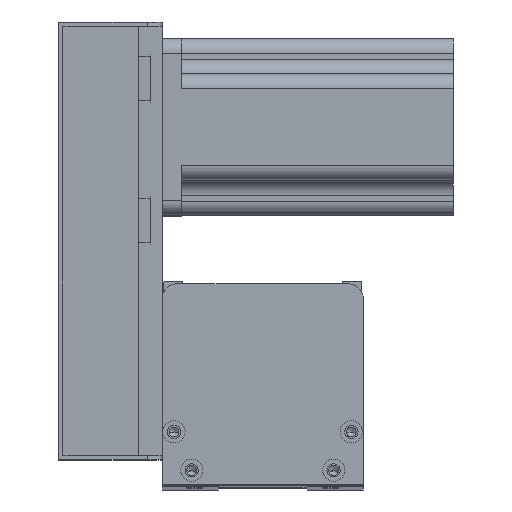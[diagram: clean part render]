
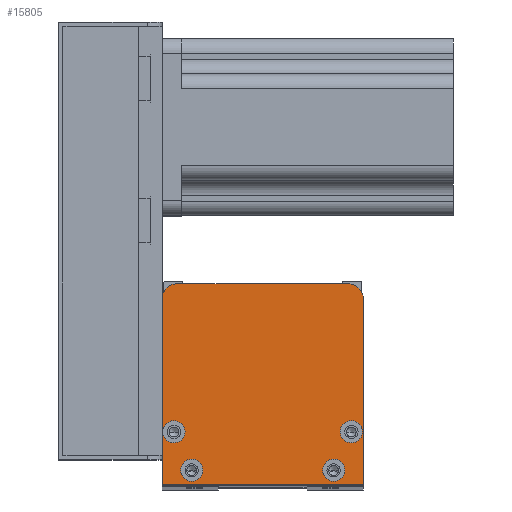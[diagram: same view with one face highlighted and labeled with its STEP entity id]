
A CAD part, top view. The second image highlights one B-rep face of the part: STEP entity #15805.
In plain terms, the highlighted planar face has unit normal (0, 0, 1) as drawn and (0, 0, -1) by its records, which use the part's own axes.
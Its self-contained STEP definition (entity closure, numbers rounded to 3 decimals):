
#329 = CIRCLE ( 'NONE', #26296, 3.75 ) ;
#2319 = CARTESIAN_POINT ( 'NONE',  ( 6.25, 5., 0. ) ) ;
#2502 = DIRECTION ( 'NONE',  ( 0., 0., -1. ) ) ;
#2797 = DIRECTION ( 'NONE',  ( 1., 0., 0. ) ) ;
#3062 = CARTESIAN_POINT ( 'NONE',  ( 63., 68., 0. ) ) ;
#3683 = VERTEX_POINT ( 'NONE', #26411 ) ;
#3705 = AXIS2_PLACEMENT_3D ( 'NONE', #26289, #9169, #24221 ) ;
#3900 = CARTESIAN_POINT ( 'NONE',  ( 0., 0., 0. ) ) ;
#4113 = VERTEX_POINT ( 'NONE', #2319 ) ;
#4604 = VECTOR ( 'NONE', #14771, 1000. ) ;
#4625 = EDGE_CURVE ( 'NONE', #4113, #7602, #5783, .T. ) ;
#4822 = FACE_BOUND ( 'NONE', #12379, .T. ) ;
#4890 = EDGE_CURVE ( 'NONE', #25460, #26363, #17566, .T. ) ;
#5719 = VERTEX_POINT ( 'NONE', #11705 ) ;
#5764 = ORIENTED_EDGE ( 'NONE', *, *, #4890, .F. ) ;
#5783 = CIRCLE ( 'NONE', #13517, 3.75 ) ;
#5806 = DIRECTION ( 'NONE',  ( -1., 0., 0. ) ) ;
#5975 = LINE ( 'NONE', #20878, #14442 ) ;
#6015 = ORIENTED_EDGE ( 'NONE', *, *, #6365, .F. ) ;
#6156 = EDGE_LOOP ( 'NONE', ( #5764, #6015 ) ) ;
#6365 = EDGE_CURVE ( 'NONE', #26363, #25460, #12101, .T. ) ;
#7088 = DIRECTION ( 'NONE',  ( -1., 0., 0. ) ) ;
#7280 = CARTESIAN_POINT ( 'NONE',  ( 0., 0., 0. ) ) ;
#7550 = EDGE_CURVE ( 'NONE', #13844, #15530, #19022, .T. ) ;
#7602 = VERTEX_POINT ( 'NONE', #7638 ) ;
#7638 = CARTESIAN_POINT ( 'NONE',  ( 13.75, 5., 0. ) ) ;
#7773 = CARTESIAN_POINT ( 'NONE',  ( 58., 5., 0. ) ) ;
#7987 = AXIS2_PLACEMENT_3D ( 'NONE', #7280, #18175, #11713 ) ;
#8327 = VERTEX_POINT ( 'NONE', #18575 ) ;
#8638 = LINE ( 'NONE', #10757, #25470 ) ;
#9169 = DIRECTION ( 'NONE',  ( 0., 0., -1. ) ) ;
#10017 = DIRECTION ( 'NONE',  ( -1., 0., 0. ) ) ;
#10206 = CARTESIAN_POINT ( 'NONE',  ( 68., 68., 0. ) ) ;
#10445 = CARTESIAN_POINT ( 'NONE',  ( 68., 0., 0. ) ) ;
#10757 = CARTESIAN_POINT ( 'NONE',  ( 68., 0., 0. ) ) ;
#10824 = CIRCLE ( 'NONE', #15149, 5. ) ;
#11313 = EDGE_CURVE ( 'NONE', #11394, #20196, #5975, .T. ) ;
#11394 = VERTEX_POINT ( 'NONE', #10445 ) ;
#11705 = CARTESIAN_POINT ( 'NONE',  ( 0., 0., 0. ) ) ;
#11713 = DIRECTION ( 'NONE',  ( 1., 0., 0. ) ) ;
#11905 = EDGE_CURVE ( 'NONE', #8327, #22307, #10824, .T. ) ;
#12101 = CIRCLE ( 'NONE', #23514, 3.75 ) ;
#12192 = ORIENTED_EDGE ( 'NONE', *, *, #11313, .F. ) ;
#12219 = CARTESIAN_POINT ( 'NONE',  ( 68., 63., 0. ) ) ;
#12379 = EDGE_LOOP ( 'NONE', ( #15704, #17178 ) ) ;
#12439 = CARTESIAN_POINT ( 'NONE',  ( 67.75, 18., 0. ) ) ;
#13068 = DIRECTION ( 'NONE',  ( 0., 0., -1. ) ) ;
#13296 = FACE_BOUND ( 'NONE', #22285, .T. ) ;
#13472 = CARTESIAN_POINT ( 'NONE',  ( 0.25, 18., 0. ) ) ;
#13473 = CARTESIAN_POINT ( 'NONE',  ( 10., 5., 0. ) ) ;
#13517 = AXIS2_PLACEMENT_3D ( 'NONE', #13473, #2502, #26166 ) ;
#13844 = VERTEX_POINT ( 'NONE', #13472 ) ;
#14442 = VECTOR ( 'NONE', #16399, 1000. ) ;
#14553 = CARTESIAN_POINT ( 'NONE',  ( 63., 63., 0. ) ) ;
#14746 = EDGE_CURVE ( 'NONE', #5719, #11394, #8638, .T. ) ;
#14771 = DIRECTION ( 'NONE',  ( 0., -1., 0. ) ) ;
#15149 = AXIS2_PLACEMENT_3D ( 'NONE', #15738, #26180, #2797 ) ;
#15476 = AXIS2_PLACEMENT_3D ( 'NONE', #7773, #22828, #5806 ) ;
#15530 = VERTEX_POINT ( 'NONE', #17287 ) ;
#15704 = ORIENTED_EDGE ( 'NONE', *, *, #7550, .F. ) ;
#15738 = CARTESIAN_POINT ( 'NONE',  ( 5., 63., 0. ) ) ;
#15772 = PLANE ( 'NONE',  #7987 ) ;
#15805 = ADVANCED_FACE ( 'NONE', ( #13296, #4822, #22358, #24061, #21328 ), #15772, .F. ) ;
#16185 = CIRCLE ( 'NONE', #23385, 3.75 ) ;
#16399 = DIRECTION ( 'NONE',  ( 0., 1., 0. ) ) ;
#16589 = EDGE_LOOP ( 'NONE', ( #26642, #17024 ) ) ;
#16813 = CIRCLE ( 'NONE', #22126, 3.75 ) ;
#16902 = EDGE_CURVE ( 'NONE', #15530, #13844, #17901, .T. ) ;
#16974 = DIRECTION ( 'NONE',  ( 1., 0., 0. ) ) ;
#17024 = ORIENTED_EDGE ( 'NONE', *, *, #20829, .F. ) ;
#17178 = ORIENTED_EDGE ( 'NONE', *, *, #16902, .F. ) ;
#17287 = CARTESIAN_POINT ( 'NONE',  ( 7.75, 18., 0. ) ) ;
#17320 = DIRECTION ( 'NONE',  ( -1., 0., 0. ) ) ;
#17467 = VECTOR ( 'NONE', #10017, 1000. ) ;
#17566 = CIRCLE ( 'NONE', #15476, 3.75 ) ;
#17644 = ORIENTED_EDGE ( 'NONE', *, *, #14746, .F. ) ;
#17901 = CIRCLE ( 'NONE', #22615, 3.75 ) ;
#17924 = CARTESIAN_POINT ( 'NONE',  ( 64., 18., 0. ) ) ;
#18175 = DIRECTION ( 'NONE',  ( 0., 0., 1. ) ) ;
#18364 = VERTEX_POINT ( 'NONE', #3062 ) ;
#18449 = EDGE_CURVE ( 'NONE', #3683, #26268, #16185, .T. ) ;
#18575 = CARTESIAN_POINT ( 'NONE',  ( 0., 63., 0. ) ) ;
#18947 = ORIENTED_EDGE ( 'NONE', *, *, #19065, .F. ) ;
#19022 = CIRCLE ( 'NONE', #3705, 3.75 ) ;
#19065 = EDGE_CURVE ( 'NONE', #26268, #3683, #16813, .T. ) ;
#19240 = EDGE_LOOP ( 'NONE', ( #19933, #27483, #26815, #19614, #12192, #17644 ) ) ;
#19373 = EDGE_CURVE ( 'NONE', #18364, #22307, #26570, .T. ) ;
#19424 = DIRECTION ( 'NONE',  ( 0., 0., -1. ) ) ;
#19507 = DIRECTION ( 'NONE',  ( -1., 0., 0. ) ) ;
#19614 = ORIENTED_EDGE ( 'NONE', *, *, #27882, .T. ) ;
#19644 = CARTESIAN_POINT ( 'NONE',  ( 10., 5., 0. ) ) ;
#19871 = DIRECTION ( 'NONE',  ( 0., 0., -1. ) ) ;
#19933 = ORIENTED_EDGE ( 'NONE', *, *, #21197, .F. ) ;
#20196 = VERTEX_POINT ( 'NONE', #12219 ) ;
#20306 = AXIS2_PLACEMENT_3D ( 'NONE', #14553, #25635, #16974 ) ;
#20667 = DIRECTION ( 'NONE',  ( -1., 0., 0. ) ) ;
#20767 = DIRECTION ( 'NONE',  ( 0., 0., -1. ) ) ;
#20829 = EDGE_CURVE ( 'NONE', #7602, #4113, #329, .T. ) ;
#20878 = CARTESIAN_POINT ( 'NONE',  ( 68., 0., 0. ) ) ;
#21104 = LINE ( 'NONE', #3900, #4604 ) ;
#21197 = EDGE_CURVE ( 'NONE', #8327, #5719, #21104, .T. ) ;
#21328 = FACE_OUTER_BOUND ( 'NONE', #19240, .T. ) ;
#21576 = CARTESIAN_POINT ( 'NONE',  ( 58., 5., 0. ) ) ;
#22006 = DIRECTION ( 'NONE',  ( 0., 0., -1. ) ) ;
#22126 = AXIS2_PLACEMENT_3D ( 'NONE', #17924, #19871, #7088 ) ;
#22188 = CARTESIAN_POINT ( 'NONE',  ( 5., 68., 0. ) ) ;
#22285 = EDGE_LOOP ( 'NONE', ( #24551, #18947 ) ) ;
#22307 = VERTEX_POINT ( 'NONE', #22188 ) ;
#22358 = FACE_BOUND ( 'NONE', #16589, .T. ) ;
#22615 = AXIS2_PLACEMENT_3D ( 'NONE', #25939, #13068, #19507 ) ;
#22828 = DIRECTION ( 'NONE',  ( 0., 0., -1. ) ) ;
#23060 = CIRCLE ( 'NONE', #20306, 5. ) ;
#23385 = AXIS2_PLACEMENT_3D ( 'NONE', #27177, #20767, #20667 ) ;
#23514 = AXIS2_PLACEMENT_3D ( 'NONE', #21576, #19424, #25933 ) ;
#23556 = DIRECTION ( 'NONE',  ( 1., 0., 0. ) ) ;
#24061 = FACE_BOUND ( 'NONE', #6156, .T. ) ;
#24221 = DIRECTION ( 'NONE',  ( -1., 0., 0. ) ) ;
#24407 = CARTESIAN_POINT ( 'NONE',  ( 54.25, 5., 0. ) ) ;
#24551 = ORIENTED_EDGE ( 'NONE', *, *, #18449, .F. ) ;
#25460 = VERTEX_POINT ( 'NONE', #24407 ) ;
#25470 = VECTOR ( 'NONE', #23556, 1000. ) ;
#25635 = DIRECTION ( 'NONE',  ( 0., 0., -1. ) ) ;
#25933 = DIRECTION ( 'NONE',  ( -1., 0., 0. ) ) ;
#25939 = CARTESIAN_POINT ( 'NONE',  ( 4., 18., 0. ) ) ;
#26166 = DIRECTION ( 'NONE',  ( -1., 0., 0. ) ) ;
#26180 = DIRECTION ( 'NONE',  ( 0., 0., -1. ) ) ;
#26268 = VERTEX_POINT ( 'NONE', #12439 ) ;
#26289 = CARTESIAN_POINT ( 'NONE',  ( 4., 18., 0. ) ) ;
#26296 = AXIS2_PLACEMENT_3D ( 'NONE', #19644, #22006, #17320 ) ;
#26363 = VERTEX_POINT ( 'NONE', #27928 ) ;
#26411 = CARTESIAN_POINT ( 'NONE',  ( 60.25, 18., 0. ) ) ;
#26570 = LINE ( 'NONE', #10206, #17467 ) ;
#26642 = ORIENTED_EDGE ( 'NONE', *, *, #4625, .F. ) ;
#26815 = ORIENTED_EDGE ( 'NONE', *, *, #19373, .F. ) ;
#27177 = CARTESIAN_POINT ( 'NONE',  ( 64., 18., 0. ) ) ;
#27483 = ORIENTED_EDGE ( 'NONE', *, *, #11905, .T. ) ;
#27882 = EDGE_CURVE ( 'NONE', #18364, #20196, #23060, .T. ) ;
#27928 = CARTESIAN_POINT ( 'NONE',  ( 61.75, 5., 0. ) ) ;
